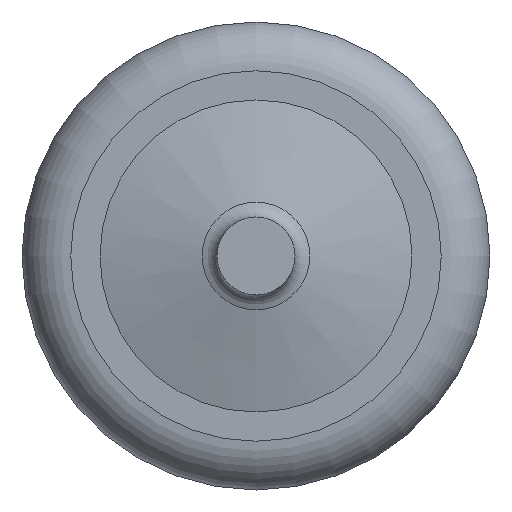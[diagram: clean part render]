
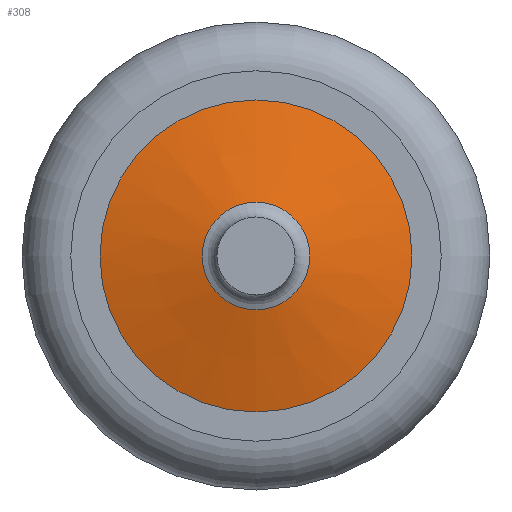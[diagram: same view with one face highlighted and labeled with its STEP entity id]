
A CAD part, left-side view. The second image highlights one B-rep face of the part: STEP entity #308.
In plain terms, the highlighted conical face has half-angle 75.964 degrees and reference radius 1 mm.
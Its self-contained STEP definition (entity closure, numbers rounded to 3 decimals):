
#14=CONICAL_SURFACE('',#349,1.,75.964);
#38=FACE_BOUND('',#96,.T.);
#63=FACE_OUTER_BOUND('',#95,.T.);
#95=EDGE_LOOP('',(#225));
#96=EDGE_LOOP('',(#226));
#142=CIRCLE('',#348,0.551);
#143=CIRCLE('',#350,1.6);
#168=VERTEX_POINT('',#515);
#169=VERTEX_POINT('',#518);
#194=EDGE_CURVE('',#168,#168,#142,.T.);
#195=EDGE_CURVE('',#169,#169,#143,.T.);
#225=ORIENTED_EDGE('',*,*,#195,.T.);
#226=ORIENTED_EDGE('',*,*,#194,.F.);
#308=ADVANCED_FACE('',(#63,#38),#14,.T.);
#348=AXIS2_PLACEMENT_3D('',#516,#413,#414);
#349=AXIS2_PLACEMENT_3D('',#517,#415,#416);
#350=AXIS2_PLACEMENT_3D('',#519,#417,#418);
#413=DIRECTION('center_axis',(-1.,0.,0.));
#414=DIRECTION('ref_axis',(0.,0.,-1.));
#415=DIRECTION('center_axis',(1.,0.,0.));
#416=DIRECTION('ref_axis',(0.,0.,-1.));
#417=DIRECTION('center_axis',(-1.,0.,0.));
#418=DIRECTION('ref_axis',(0.,0.,-1.));
#515=CARTESIAN_POINT('',(-6.762,0.,0.551));
#516=CARTESIAN_POINT('Origin',(-6.762,0.,0.));
#517=CARTESIAN_POINT('Origin',(-6.65,0.,0.));
#518=CARTESIAN_POINT('',(-6.5,0.,1.6));
#519=CARTESIAN_POINT('Origin',(-6.5,0.,0.));
